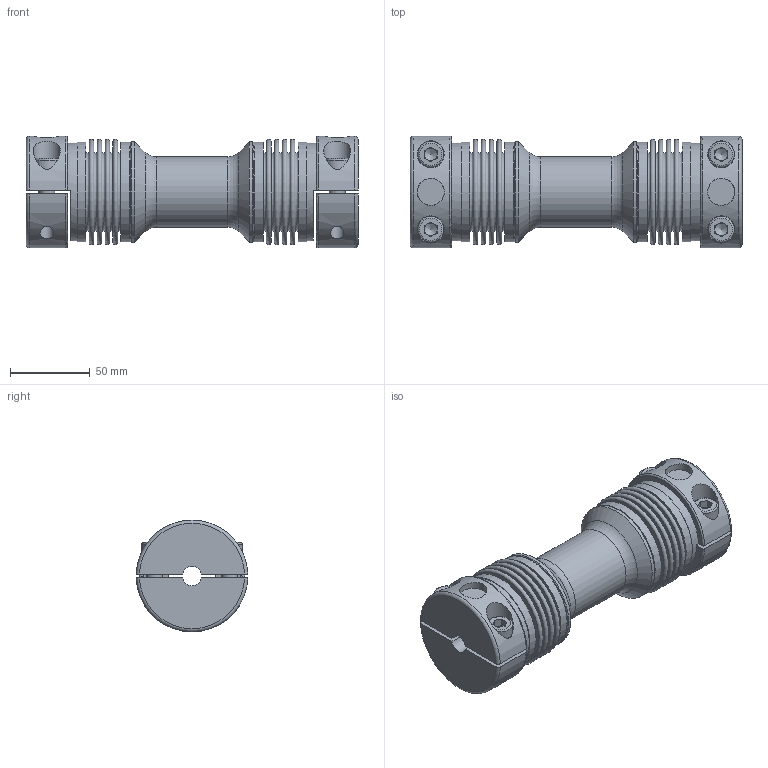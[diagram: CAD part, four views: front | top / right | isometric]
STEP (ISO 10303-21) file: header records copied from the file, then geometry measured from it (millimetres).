
FILE_DESCRIPTION(/* description */ ('Unknown'),/* implementation_level */ '2;1');
FILE_NAME(/* name */ 'WDZ 100',/* time_stamp */ '2020-05-11T13:03:03+03:00',/* author */ ('Unknown'),/* organization */ ('Unknown'),/* preprocessor_version */ 'ST-DEVELOPER v16.7',/* originating_system */ 'DEX',/* authorisation */ $);
FILE_SCHEMA (('AUTOMOTIVE_DESIGN {1 0 10303 214 3 1 1}'));
Length unit declared in the file: millimetre
Products named in the file (1): WDZ 100
Bounding box: 208 x 69.96 x 70 mm (x, y, z)
Volume: 343411.5 mm3; surface area: 156573 mm2
Topology: 1 solids, 3 shells, 264 faces, 537 edges, 347 vertices
Faces by surface type: plane 138, torus 62, cylinder 52, cone 12
Full cylindrical faces by diameter (mm): 8.5 x4, 10 x4, 10.4 x4, 16 x4, 17 x6, 30 x2, 37.4 x2, 38 x1, 39 x4, 44 x1, 46 x2, 61.3 x4, 62.3 x4, 63 x2
Entity records: 6340 total; most frequent: CARTESIAN_POINT 1241, DIRECTION 1118, ORIENTED_EDGE 780, AXIS2_PLACEMENT_3D 489, FACE_BOUND 456, EDGE_LOOP 452, EDGE_CURVE 390, VERTEX_POINT 314
